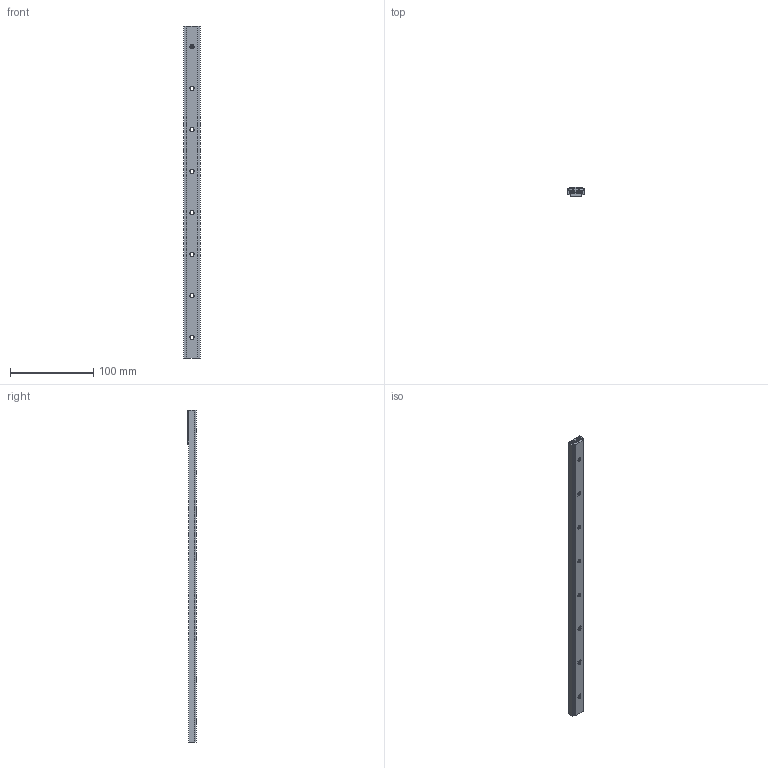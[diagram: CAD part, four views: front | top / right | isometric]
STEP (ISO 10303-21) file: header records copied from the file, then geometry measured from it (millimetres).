
FILE_DESCRIPTION (( 'STEP AP203' ), '1' );
FILE_NAME ('mlg-20c_mlg20-400_0.step', '2023-07-21T01:34:17', ( '' ), ( '' ), 'SwSTEP 2.0', 'SolidWorks 2022', '' );
FILE_SCHEMA (( 'CONFIG_CONTROL_DESIGN' ));
Length unit declared in the file: millimetre
Products named in the file (3): mlg-20c_mlg20-400_0; mlg20-400_0_L=400; mlg-20c_0
Assembly tree (2 placements, depth 2):
  mlg-20c_mlg20-400_0
    mlg20-400_0_L=400
    mlg-20c_0
Bounding box: 20.15 x 10.5 x 400 mm (x, y, z)
Volume: 28896.7 mm3; surface area: 32098.4 mm2
Topology: 2 solids, 2 shells, 441 faces, 1121 edges, 742 vertices
Faces by surface type: plane 260, cylinder 157, torus 24
Entity records: 13738 total; most frequent: DIRECTION 2383, CARTESIAN_POINT 2309, ORIENTED_EDGE 2242, EDGE_CURVE 1121, AXIS2_PLACEMENT_3D 816, LINE 751, VECTOR 751, VERTEX_POINT 742
